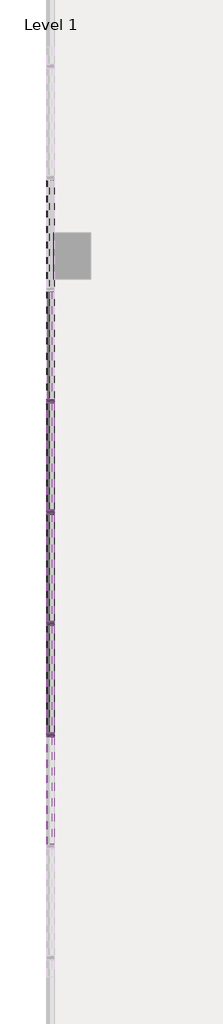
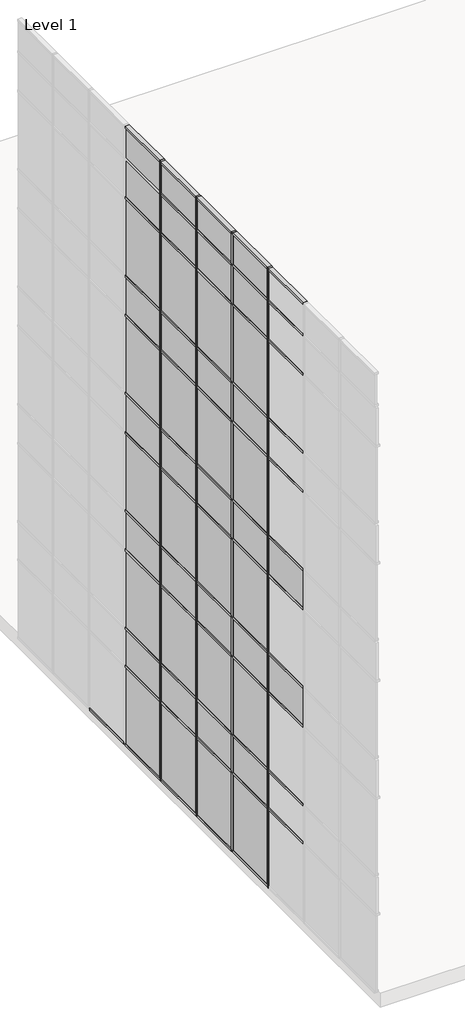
# One storey, part 2 of 23: 83 members, 46 plates.
"""IFC4 building model written with IfcOpenShell, lengths in millimetres."""

from ifc_helpers import new_model, si_unit, origin, place, context, project, spatial, transform, mapped, element, save
from components import member_f92b8aa2, member_810865a4, member_6d5c3e5e, member_9764dd38, system_panel_glazed_14c75400, system_panel_solid_5dfe6f83, system_panel_solid_e25e2004, system_panel_solid_b7551183

model = new_model("IFC4")

# Units and contexts
model_context = context("Model", 3, world=origin())
ifc_project = project(units=[si_unit("LENGTHUNIT", "METRE", prefix="MILLI")], contexts=[model_context])

# Site, building, storey
site = spatial("IfcSite", under=ifc_project)
building = spatial("IfcBuilding", under=site)
storey = spatial("IfcBuildingStorey", under=building, Name="Level 1", Elevation=0.0)

# Members
placement = place(None, origin())
member_shape = member_f92b8aa2(model_context)
element("IfcMember", 1, ObjectType="Rectangular Mullion : 2.5\" x 5\" rectangular", at=placement, inside=storey, context=model_context, shape_type="MappedRepresentation", body=[
    mapped(member_shape, transform((-68724.2599961, -22227.5103492, 18288.0), x_axis=(0.0, 1.0, 0.0), y_axis=(1.0, 0.0, 0.0), z_axis=(0.0, 0.0, -1.0))),
])
element("IfcMember", 2, ObjectType="Rectangular Mullion : 2.5\" x 5\" rectangular", at=placement, inside=storey, context=model_context, shape_type="MappedRepresentation", body=[
    mapped(member_shape, transform((-68724.2599961, -20398.7103492, 18288.0), x_axis=(0.0, 1.0, 0.0), y_axis=(1.0, 0.0, 0.0), z_axis=(0.0, 0.0, -1.0))),
])
element("IfcMember", 3, ObjectType="Rectangular Mullion : 2.5\" x 5\" rectangular", at=placement, inside=storey, context=model_context, shape_type="MappedRepresentation", body=[
    mapped(member_shape, transform((-68724.2599961, -18569.9103492, 18288.0), x_axis=(0.0, 1.0, 0.0), y_axis=(1.0, 0.0, 0.0), z_axis=(0.0, 0.0, -1.0))),
])
element("IfcMember", 4, ObjectType="Rectangular Mullion : 2.5\" x 5\" rectangular", at=placement, inside=storey, context=model_context, shape_type="MappedRepresentation", body=[
    mapped(member_shape, transform((-68724.2599961, -16741.1103492, 18288.0), x_axis=(0.0, 1.0, 0.0), y_axis=(1.0, 0.0, 0.0), z_axis=(0.0, 0.0, -1.0))),
])
member_2_shape = member_810865a4(model_context)
element("IfcMember", 5, ObjectType="Rectangular Mullion : 2.5\" x 5\" rectangular", at=placement, inside=storey, context=model_context, shape_type="MappedRepresentation", body=[
    mapped(member_2_shape, transform((-68724.2599961, -22227.5103492, 3657.6), x_axis=(0.0, 1.0, 0.0), y_axis=(1.0, 0.0, 0.0), z_axis=(0.0, 0.0, -1.0))),
])
element("IfcMember", 6, ObjectType="Rectangular Mullion : 2.5\" x 5\" rectangular", at=placement, inside=storey, context=model_context, shape_type="MappedRepresentation", body=[
    mapped(member_2_shape, transform((-68724.2599961, -20398.7103492, 3657.6), x_axis=(0.0, 1.0, 0.0), y_axis=(1.0, 0.0, 0.0), z_axis=(0.0, 0.0, -1.0))),
])
element("IfcMember", 7, ObjectType="Rectangular Mullion : 2.5\" x 5\" rectangular", at=placement, inside=storey, context=model_context, shape_type="MappedRepresentation", body=[
    mapped(member_2_shape, transform((-68724.2599961, -18569.9103492, 3657.6), x_axis=(0.0, 1.0, 0.0), y_axis=(1.0, 0.0, 0.0), z_axis=(0.0, 0.0, -1.0))),
])
element("IfcMember", 8, ObjectType="Rectangular Mullion : 2.5\" x 5\" rectangular", at=placement, inside=storey, context=model_context, shape_type="MappedRepresentation", body=[
    mapped(member_2_shape, transform((-68724.2599961, -16741.1103492, 3657.6), x_axis=(0.0, 1.0, 0.0), y_axis=(1.0, 0.0, 0.0), z_axis=(0.0, 0.0, -1.0))),
])
element("IfcMember", 9, ObjectType="Rectangular Mullion : 2.5\" x 5\" rectangular", at=placement, inside=storey, context=model_context, shape_type="MappedRepresentation", body=[
    mapped(member_2_shape, transform((-68724.2599961, -22227.5103492, 7315.2), x_axis=(0.0, 1.0, 0.0), y_axis=(1.0, 0.0, 0.0), z_axis=(0.0, 0.0, -1.0))),
])
element("IfcMember", 10, ObjectType="Rectangular Mullion : 2.5\" x 5\" rectangular", at=placement, inside=storey, context=model_context, shape_type="MappedRepresentation", body=[
    mapped(member_2_shape, transform((-68724.2599961, -20398.7103492, 7315.2), x_axis=(0.0, 1.0, 0.0), y_axis=(1.0, 0.0, 0.0), z_axis=(0.0, 0.0, -1.0))),
])
element("IfcMember", 11, ObjectType="Rectangular Mullion : 2.5\" x 5\" rectangular", at=placement, inside=storey, context=model_context, shape_type="MappedRepresentation", body=[
    mapped(member_2_shape, transform((-68724.2599961, -18569.9103492, 7315.2), x_axis=(0.0, 1.0, 0.0), y_axis=(1.0, 0.0, 0.0), z_axis=(0.0, 0.0, -1.0))),
])
element("IfcMember", 12, ObjectType="Rectangular Mullion : 2.5\" x 5\" rectangular", at=placement, inside=storey, context=model_context, shape_type="MappedRepresentation", body=[
    mapped(member_2_shape, transform((-68724.2599961, -16741.1103492, 7315.2), x_axis=(0.0, 1.0, 0.0), y_axis=(1.0, 0.0, 0.0), z_axis=(0.0, 0.0, -1.0))),
])
element("IfcMember", 13, ObjectType="Rectangular Mullion : 2.5\" x 5\" rectangular", at=placement, inside=storey, context=model_context, shape_type="MappedRepresentation", body=[
    mapped(member_2_shape, transform((-68724.2599961, -22227.5103492, 10972.8), x_axis=(0.0, 1.0, 0.0), y_axis=(1.0, 0.0, 0.0), z_axis=(0.0, 0.0, -1.0))),
])
element("IfcMember", 14, ObjectType="Rectangular Mullion : 2.5\" x 5\" rectangular", at=placement, inside=storey, context=model_context, shape_type="MappedRepresentation", body=[
    mapped(member_2_shape, transform((-68724.2599961, -20398.7103492, 10972.8), x_axis=(0.0, 1.0, 0.0), y_axis=(1.0, 0.0, 0.0), z_axis=(0.0, 0.0, -1.0))),
])
element("IfcMember", 15, ObjectType="Rectangular Mullion : 2.5\" x 5\" rectangular", at=placement, inside=storey, context=model_context, shape_type="MappedRepresentation", body=[
    mapped(member_2_shape, transform((-68724.2599961, -18569.9103492, 10972.8), x_axis=(0.0, 1.0, 0.0), y_axis=(1.0, 0.0, 0.0), z_axis=(0.0, 0.0, -1.0))),
])
element("IfcMember", 16, ObjectType="Rectangular Mullion : 2.5\" x 5\" rectangular", at=placement, inside=storey, context=model_context, shape_type="MappedRepresentation", body=[
    mapped(member_2_shape, transform((-68724.2599961, -16741.1103492, 10972.8), x_axis=(0.0, 1.0, 0.0), y_axis=(1.0, 0.0, 0.0), z_axis=(0.0, 0.0, -1.0))),
])
element("IfcMember", 17, ObjectType="Rectangular Mullion : 2.5\" x 5\" rectangular", at=placement, inside=storey, context=model_context, shape_type="MappedRepresentation", body=[
    mapped(member_2_shape, transform((-68724.2599961, -22227.5103492, 14630.4), x_axis=(0.0, 1.0, 0.0), y_axis=(1.0, 0.0, 0.0), z_axis=(0.0, 0.0, -1.0))),
])
element("IfcMember", 18, ObjectType="Rectangular Mullion : 2.5\" x 5\" rectangular", at=placement, inside=storey, context=model_context, shape_type="MappedRepresentation", body=[
    mapped(member_2_shape, transform((-68724.2599961, -20398.7103492, 14630.4), x_axis=(0.0, 1.0, 0.0), y_axis=(1.0, 0.0, 0.0), z_axis=(0.0, 0.0, -1.0))),
])
element("IfcMember", 19, ObjectType="Rectangular Mullion : 2.5\" x 5\" rectangular", at=placement, inside=storey, context=model_context, shape_type="MappedRepresentation", body=[
    mapped(member_2_shape, transform((-68724.2599961, -18569.9103492, 14630.4), x_axis=(0.0, 1.0, 0.0), y_axis=(1.0, 0.0, 0.0), z_axis=(0.0, 0.0, -1.0))),
])
element("IfcMember", 20, ObjectType="Rectangular Mullion : 2.5\" x 5\" rectangular", at=placement, inside=storey, context=model_context, shape_type="MappedRepresentation", body=[
    mapped(member_2_shape, transform((-68724.2599961, -16741.1103492, 14630.4), x_axis=(0.0, 1.0, 0.0), y_axis=(1.0, 0.0, 0.0), z_axis=(0.0, 0.0, -1.0))),
])
member_3_shape = member_6d5c3e5e(model_context)
element("IfcMember", 21, ObjectType="Rectangular Mullion : 2.5\" x 5\" rectangular", at=placement, inside=storey, context=model_context, shape_type="MappedRepresentation", body=[
    mapped(member_3_shape, transform((-68724.2599961, -22259.2603492, 19304.0), x_axis=(0.0, 0.0, 1.0), y_axis=(1.0, 0.0, 0.0), z_axis=(0.0, 1.0, 0.0))),
])
element("IfcMember", 22, ObjectType="Rectangular Mullion : 2.5\" x 5\" rectangular", at=placement, inside=storey, context=model_context, shape_type="MappedRepresentation", body=[
    mapped(member_3_shape, transform((-68724.2599961, -20430.4603492, 19304.0), x_axis=(0.0, 0.0, 1.0), y_axis=(1.0, 0.0, 0.0), z_axis=(0.0, 1.0, 0.0))),
])
element("IfcMember", 23, ObjectType="Rectangular Mullion : 2.5\" x 5\" rectangular", at=placement, inside=storey, context=model_context, shape_type="MappedRepresentation", body=[
    mapped(member_3_shape, transform((-68724.2599961, -18601.6603492, 19304.0), x_axis=(0.0, 0.0, 1.0), y_axis=(1.0, 0.0, 0.0), z_axis=(0.0, 1.0, 0.0))),
])
element("IfcMember", 24, ObjectType="Rectangular Mullion : 2.5\" x 5\" rectangular", at=placement, inside=storey, context=model_context, shape_type="MappedRepresentation", body=[
    mapped(member_3_shape, transform((-68724.2599961, -16772.8603492, 19304.0), x_axis=(0.0, 0.0, 1.0), y_axis=(1.0, 0.0, 0.0), z_axis=(0.0, 1.0, 0.0))),
])
element("IfcMember", 25, ObjectType="Rectangular Mullion : 2.5\" x 5\" rectangular", at=placement, inside=storey, context=model_context, shape_type="MappedRepresentation", body=[
    mapped(member_3_shape, transform((-68724.2599961, -14944.0603492, 19304.0), x_axis=(0.0, 0.0, 1.0), y_axis=(1.0, 0.0, 0.0), z_axis=(0.0, 1.0, 0.0))),
])
member_4_shape = member_9764dd38(model_context)
element("IfcMember", 26, ObjectType="Rectangular Mullion : 2.5\" x 5\" rectangular", at=placement, inside=storey, context=model_context, shape_type="MappedRepresentation", body=[
    mapped(member_4_shape, transform((-68724.2599961, -14944.0603492, 17068.8), x_axis=(0.0, 0.0, 1.0), y_axis=(1.0, 0.0, 0.0), z_axis=(0.0, 1.0, 0.0))),
])
element("IfcMember", 27, ObjectType="Rectangular Mullion : 2.5\" x 5\" rectangular", at=placement, inside=storey, context=model_context, shape_type="MappedRepresentation", body=[
    mapped(member_4_shape, transform((-68724.2599961, -16772.8603492, 17068.8), x_axis=(0.0, 0.0, 1.0), y_axis=(1.0, 0.0, 0.0), z_axis=(0.0, 1.0, 0.0))),
])
element("IfcMember", 28, ObjectType="Rectangular Mullion : 2.5\" x 5\" rectangular", at=placement, inside=storey, context=model_context, shape_type="MappedRepresentation", body=[
    mapped(member_4_shape, transform((-68724.2599961, -18601.6603492, 17068.8), x_axis=(0.0, 0.0, 1.0), y_axis=(1.0, 0.0, 0.0), z_axis=(0.0, 1.0, 0.0))),
])
element("IfcMember", 29, ObjectType="Rectangular Mullion : 2.5\" x 5\" rectangular", at=placement, inside=storey, context=model_context, shape_type="MappedRepresentation", body=[
    mapped(member_4_shape, transform((-68724.2599961, -20430.4603492, 17068.8), x_axis=(0.0, 0.0, 1.0), y_axis=(1.0, 0.0, 0.0), z_axis=(0.0, 1.0, 0.0))),
])
element("IfcMember", 30, ObjectType="Rectangular Mullion : 2.5\" x 5\" rectangular", at=placement, inside=storey, context=model_context, shape_type="MappedRepresentation", body=[
    mapped(member_4_shape, transform((-68724.2599961, -22259.2603492, 17068.8), x_axis=(0.0, 0.0, 1.0), y_axis=(1.0, 0.0, 0.0), z_axis=(0.0, 1.0, 0.0))),
])
element("IfcMember", 31, ObjectType="Rectangular Mullion : 2.5\" x 5\" rectangular", at=placement, inside=storey, context=model_context, shape_type="MappedRepresentation", body=[
    mapped(member_4_shape, transform((-68724.2599961, -14944.0603492, 13411.2), x_axis=(0.0, 0.0, 1.0), y_axis=(1.0, 0.0, 0.0), z_axis=(0.0, 1.0, 0.0))),
])
element("IfcMember", 32, ObjectType="Rectangular Mullion : 2.5\" x 5\" rectangular", at=placement, inside=storey, context=model_context, shape_type="MappedRepresentation", body=[
    mapped(member_4_shape, transform((-68724.2599961, -16772.8603492, 13411.2), x_axis=(0.0, 0.0, 1.0), y_axis=(1.0, 0.0, 0.0), z_axis=(0.0, 1.0, 0.0))),
])
element("IfcMember", 33, ObjectType="Rectangular Mullion : 2.5\" x 5\" rectangular", at=placement, inside=storey, context=model_context, shape_type="MappedRepresentation", body=[
    mapped(member_4_shape, transform((-68724.2599961, -18601.6603492, 13411.2), x_axis=(0.0, 0.0, 1.0), y_axis=(1.0, 0.0, 0.0), z_axis=(0.0, 1.0, 0.0))),
])
element("IfcMember", 34, ObjectType="Rectangular Mullion : 2.5\" x 5\" rectangular", at=placement, inside=storey, context=model_context, shape_type="MappedRepresentation", body=[
    mapped(member_4_shape, transform((-68724.2599961, -20430.4603492, 13411.2), x_axis=(0.0, 0.0, 1.0), y_axis=(1.0, 0.0, 0.0), z_axis=(0.0, 1.0, 0.0))),
])
element("IfcMember", 35, ObjectType="Rectangular Mullion : 2.5\" x 5\" rectangular", at=placement, inside=storey, context=model_context, shape_type="MappedRepresentation", body=[
    mapped(member_4_shape, transform((-68724.2599961, -22259.2603492, 13411.2), x_axis=(0.0, 0.0, 1.0), y_axis=(1.0, 0.0, 0.0), z_axis=(0.0, 1.0, 0.0))),
])
element("IfcMember", 36, ObjectType="Rectangular Mullion : 2.5\" x 5\" rectangular", at=placement, inside=storey, context=model_context, shape_type="MappedRepresentation", body=[
    mapped(member_4_shape, transform((-68724.2599961, -14944.0603492, 9753.6), x_axis=(0.0, 0.0, 1.0), y_axis=(1.0, 0.0, 0.0), z_axis=(0.0, 1.0, 0.0))),
])
element("IfcMember", 37, ObjectType="Rectangular Mullion : 2.5\" x 5\" rectangular", at=placement, inside=storey, context=model_context, shape_type="MappedRepresentation", body=[
    mapped(member_4_shape, transform((-68724.2599961, -16772.8603492, 9753.6), x_axis=(0.0, 0.0, 1.0), y_axis=(1.0, 0.0, 0.0), z_axis=(0.0, 1.0, 0.0))),
])
element("IfcMember", 38, ObjectType="Rectangular Mullion : 2.5\" x 5\" rectangular", at=placement, inside=storey, context=model_context, shape_type="MappedRepresentation", body=[
    mapped(member_4_shape, transform((-68724.2599961, -18601.6603492, 9753.6), x_axis=(0.0, 0.0, 1.0), y_axis=(1.0, 0.0, 0.0), z_axis=(0.0, 1.0, 0.0))),
])
element("IfcMember", 39, ObjectType="Rectangular Mullion : 2.5\" x 5\" rectangular", at=placement, inside=storey, context=model_context, shape_type="MappedRepresentation", body=[
    mapped(member_4_shape, transform((-68724.2599961, -20430.4603492, 9753.6), x_axis=(0.0, 0.0, 1.0), y_axis=(1.0, 0.0, 0.0), z_axis=(0.0, 1.0, 0.0))),
])
element("IfcMember", 40, ObjectType="Rectangular Mullion : 2.5\" x 5\" rectangular", at=placement, inside=storey, context=model_context, shape_type="MappedRepresentation", body=[
    mapped(member_4_shape, transform((-68724.2599961, -22259.2603492, 9753.6), x_axis=(0.0, 0.0, 1.0), y_axis=(1.0, 0.0, 0.0), z_axis=(0.0, 1.0, 0.0))),
])
element("IfcMember", 41, ObjectType="Rectangular Mullion : 2.5\" x 5\" rectangular", at=placement, inside=storey, context=model_context, shape_type="MappedRepresentation", body=[
    mapped(member_4_shape, transform((-68724.2599961, -14944.0603492, 6096.0), x_axis=(0.0, 0.0, 1.0), y_axis=(1.0, 0.0, 0.0), z_axis=(0.0, 1.0, 0.0))),
])
element("IfcMember", 42, ObjectType="Rectangular Mullion : 2.5\" x 5\" rectangular", at=placement, inside=storey, context=model_context, shape_type="MappedRepresentation", body=[
    mapped(member_4_shape, transform((-68724.2599961, -16772.8603492, 6096.0), x_axis=(0.0, 0.0, 1.0), y_axis=(1.0, 0.0, 0.0), z_axis=(0.0, 1.0, 0.0))),
])
element("IfcMember", 43, ObjectType="Rectangular Mullion : 2.5\" x 5\" rectangular", at=placement, inside=storey, context=model_context, shape_type="MappedRepresentation", body=[
    mapped(member_4_shape, transform((-68724.2599961, -18601.6603492, 6096.0), x_axis=(0.0, 0.0, 1.0), y_axis=(1.0, 0.0, 0.0), z_axis=(0.0, 1.0, 0.0))),
])
element("IfcMember", 44, ObjectType="Rectangular Mullion : 2.5\" x 5\" rectangular", at=placement, inside=storey, context=model_context, shape_type="MappedRepresentation", body=[
    mapped(member_4_shape, transform((-68724.2599961, -20430.4603492, 6096.0), x_axis=(0.0, 0.0, 1.0), y_axis=(1.0, 0.0, 0.0), z_axis=(0.0, 1.0, 0.0))),
])
element("IfcMember", 45, ObjectType="Rectangular Mullion : 2.5\" x 5\" rectangular", at=placement, inside=storey, context=model_context, shape_type="MappedRepresentation", body=[
    mapped(member_4_shape, transform((-68724.2599961, -22259.2603492, 6096.0), x_axis=(0.0, 0.0, 1.0), y_axis=(1.0, 0.0, 0.0), z_axis=(0.0, 1.0, 0.0))),
])
element("IfcMember", 46, ObjectType="Rectangular Mullion : 2.5\" x 5\" rectangular", at=placement, inside=storey, context=model_context, shape_type="MappedRepresentation", body=[
    mapped(member_4_shape, transform((-68724.2599961, -14944.0603492, 2470.15), x_axis=(0.0, 0.0, 1.0), y_axis=(1.0, 0.0, 0.0), z_axis=(0.0, 1.0, 0.0))),
])
element("IfcMember", 47, ObjectType="Rectangular Mullion : 2.5\" x 5\" rectangular", at=placement, inside=storey, context=model_context, shape_type="MappedRepresentation", body=[
    mapped(member_4_shape, transform((-68724.2599961, -16772.8603492, 2470.15), x_axis=(0.0, 0.0, 1.0), y_axis=(1.0, 0.0, 0.0), z_axis=(0.0, 1.0, 0.0))),
])
element("IfcMember", 48, ObjectType="Rectangular Mullion : 2.5\" x 5\" rectangular", at=placement, inside=storey, context=model_context, shape_type="MappedRepresentation", body=[
    mapped(member_4_shape, transform((-68724.2599961, -18601.6603492, 2470.15), x_axis=(0.0, 0.0, 1.0), y_axis=(1.0, 0.0, 0.0), z_axis=(0.0, 1.0, 0.0))),
])
element("IfcMember", 49, ObjectType="Rectangular Mullion : 2.5\" x 5\" rectangular", at=placement, inside=storey, context=model_context, shape_type="MappedRepresentation", body=[
    mapped(member_4_shape, transform((-68724.2599961, -20430.4603492, 2470.15), x_axis=(0.0, 0.0, 1.0), y_axis=(1.0, 0.0, 0.0), z_axis=(0.0, 1.0, 0.0))),
])
element("IfcMember", 50, ObjectType="Rectangular Mullion : 2.5\" x 5\" rectangular", at=placement, inside=storey, context=model_context, shape_type="MappedRepresentation", body=[
    mapped(member_4_shape, transform((-68724.2599961, -22259.2603492, 2470.15), x_axis=(0.0, 0.0, 1.0), y_axis=(1.0, 0.0, 0.0), z_axis=(0.0, 1.0, 0.0))),
])
element("IfcMember", 51, ObjectType="Rectangular Mullion : 2.5\" x 5\" rectangular", at=placement, inside=storey, context=model_context, shape_type="MappedRepresentation", body=[
    mapped(member_2_shape, transform((-68724.2599961, -22227.5103492, 0.0), x_axis=(0.0, 1.0, 0.0), y_axis=(1.0, 0.0, 0.0), z_axis=(0.0, 0.0, -1.0))),
])
element("IfcMember", 52, ObjectType="Rectangular Mullion : 2.5\" x 5\" rectangular", at=placement, inside=storey, context=model_context, shape_type="MappedRepresentation", body=[
    mapped(member_2_shape, transform((-68724.2599961, -20398.7103492, 0.0), x_axis=(0.0, 1.0, 0.0), y_axis=(1.0, 0.0, 0.0), z_axis=(0.0, 0.0, -1.0))),
])
element("IfcMember", 53, ObjectType="Rectangular Mullion : 2.5\" x 5\" rectangular", at=placement, inside=storey, context=model_context, shape_type="MappedRepresentation", body=[
    mapped(member_2_shape, transform((-68724.2599961, -18569.9103492, 0.0), x_axis=(0.0, 1.0, 0.0), y_axis=(1.0, 0.0, 0.0), z_axis=(0.0, 0.0, -1.0))),
])
element("IfcMember", 54, ObjectType="Rectangular Mullion : 2.5\" x 5\" rectangular", at=placement, inside=storey, context=model_context, shape_type="MappedRepresentation", body=[
    mapped(member_2_shape, transform((-68724.2599961, -16741.1103492, 0.0), x_axis=(0.0, 1.0, 0.0), y_axis=(1.0, 0.0, 0.0), z_axis=(0.0, 0.0, -1.0))),
])
element("IfcMember", 55, ObjectType="Rectangular Mullion : 2.5\" x 5\" rectangular", at=placement, inside=storey, context=model_context, shape_type="MappedRepresentation", body=[
    mapped(member_3_shape, transform((-68724.2599961, -22195.7603492, 0.0), x_axis=(0.0, 0.0, -1.0), y_axis=(1.0, 0.0, 0.0), z_axis=(0.0, -1.0, 0.0))),
])
element("IfcMember", 56, ObjectType="Rectangular Mullion : 2.5\" x 5\" rectangular", at=placement, inside=storey, context=model_context, shape_type="MappedRepresentation", body=[
    mapped(member_3_shape, transform((-68724.2599961, -20366.9603492, 0.0), x_axis=(0.0, 0.0, -1.0), y_axis=(1.0, 0.0, 0.0), z_axis=(0.0, -1.0, 0.0))),
])
element("IfcMember", 57, ObjectType="Rectangular Mullion : 2.5\" x 5\" rectangular", at=placement, inside=storey, context=model_context, shape_type="MappedRepresentation", body=[
    mapped(member_3_shape, transform((-68724.2599961, -18538.1603492, 0.0), x_axis=(0.0, 0.0, -1.0), y_axis=(1.0, 0.0, 0.0), z_axis=(0.0, -1.0, 0.0))),
])
element("IfcMember", 58, ObjectType="Rectangular Mullion : 2.5\" x 5\" rectangular", at=placement, inside=storey, context=model_context, shape_type="MappedRepresentation", body=[
    mapped(member_3_shape, transform((-68724.2599961, -16709.3603492, 0.0), x_axis=(0.0, 0.0, -1.0), y_axis=(1.0, 0.0, 0.0), z_axis=(0.0, -1.0, 0.0))),
])
element("IfcMember", 59, ObjectType="Rectangular Mullion : 2.5\" x 5\" rectangular", at=placement, inside=storey, context=model_context, shape_type="MappedRepresentation", body=[
    mapped(member_3_shape, transform((-68724.2599961, -14880.5603492, 0.0), x_axis=(0.0, 0.0, -1.0), y_axis=(1.0, 0.0, 0.0), z_axis=(0.0, -1.0, 0.0))),
])
element("IfcMember", 60, ObjectType="Rectangular Mullion : 2.5\" x 5\" rectangular", at=placement, inside=storey, context=model_context, shape_type="MappedRepresentation", body=[
    mapped(member_4_shape, transform((-68724.2599961, -22259.2603492, 3657.6), x_axis=(0.0, 0.0, 1.0), y_axis=(1.0, 0.0, 0.0), z_axis=(0.0, 1.0, 0.0))),
])
element("IfcMember", 61, ObjectType="Rectangular Mullion : 2.5\" x 5\" rectangular", at=placement, inside=storey, context=model_context, shape_type="MappedRepresentation", body=[
    mapped(member_4_shape, transform((-68724.2599961, -20430.4603492, 3657.6), x_axis=(0.0, 0.0, 1.0), y_axis=(1.0, 0.0, 0.0), z_axis=(0.0, 1.0, 0.0))),
])
element("IfcMember", 62, ObjectType="Rectangular Mullion : 2.5\" x 5\" rectangular", at=placement, inside=storey, context=model_context, shape_type="MappedRepresentation", body=[
    mapped(member_4_shape, transform((-68724.2599961, -18601.6603492, 3657.6), x_axis=(0.0, 0.0, 1.0), y_axis=(1.0, 0.0, 0.0), z_axis=(0.0, 1.0, 0.0))),
])
element("IfcMember", 63, ObjectType="Rectangular Mullion : 2.5\" x 5\" rectangular", at=placement, inside=storey, context=model_context, shape_type="MappedRepresentation", body=[
    mapped(member_4_shape, transform((-68724.2599961, -16772.8603492, 3657.6), x_axis=(0.0, 0.0, 1.0), y_axis=(1.0, 0.0, 0.0), z_axis=(0.0, 1.0, 0.0))),
])
element("IfcMember", 64, ObjectType="Rectangular Mullion : 2.5\" x 5\" rectangular", at=placement, inside=storey, context=model_context, shape_type="MappedRepresentation", body=[
    mapped(member_4_shape, transform((-68724.2599961, -14944.0603492, 3657.6), x_axis=(0.0, 0.0, 1.0), y_axis=(1.0, 0.0, 0.0), z_axis=(0.0, 1.0, 0.0))),
])
element("IfcMember", 65, ObjectType="Rectangular Mullion : 2.5\" x 5\" rectangular", at=placement, inside=storey, context=model_context, shape_type="MappedRepresentation", body=[
    mapped(member_4_shape, transform((-68724.2599961, -22259.2603492, 7315.2), x_axis=(0.0, 0.0, 1.0), y_axis=(1.0, 0.0, 0.0), z_axis=(0.0, 1.0, 0.0))),
])
element("IfcMember", 66, ObjectType="Rectangular Mullion : 2.5\" x 5\" rectangular", at=placement, inside=storey, context=model_context, shape_type="MappedRepresentation", body=[
    mapped(member_4_shape, transform((-68724.2599961, -20430.4603492, 7315.2), x_axis=(0.0, 0.0, 1.0), y_axis=(1.0, 0.0, 0.0), z_axis=(0.0, 1.0, 0.0))),
])
element("IfcMember", 67, ObjectType="Rectangular Mullion : 2.5\" x 5\" rectangular", at=placement, inside=storey, context=model_context, shape_type="MappedRepresentation", body=[
    mapped(member_4_shape, transform((-68724.2599961, -18601.6603492, 7315.2), x_axis=(0.0, 0.0, 1.0), y_axis=(1.0, 0.0, 0.0), z_axis=(0.0, 1.0, 0.0))),
])
element("IfcMember", 68, ObjectType="Rectangular Mullion : 2.5\" x 5\" rectangular", at=placement, inside=storey, context=model_context, shape_type="MappedRepresentation", body=[
    mapped(member_4_shape, transform((-68724.2599961, -16772.8603492, 7315.2), x_axis=(0.0, 0.0, 1.0), y_axis=(1.0, 0.0, 0.0), z_axis=(0.0, 1.0, 0.0))),
])
element("IfcMember", 69, ObjectType="Rectangular Mullion : 2.5\" x 5\" rectangular", at=placement, inside=storey, context=model_context, shape_type="MappedRepresentation", body=[
    mapped(member_4_shape, transform((-68724.2599961, -14944.0603492, 7315.2), x_axis=(0.0, 0.0, 1.0), y_axis=(1.0, 0.0, 0.0), z_axis=(0.0, 1.0, 0.0))),
])
element("IfcMember", 70, ObjectType="Rectangular Mullion : 2.5\" x 5\" rectangular", at=placement, inside=storey, context=model_context, shape_type="MappedRepresentation", body=[
    mapped(member_4_shape, transform((-68724.2599961, -22259.2603492, 10972.8), x_axis=(0.0, 0.0, 1.0), y_axis=(1.0, 0.0, 0.0), z_axis=(0.0, 1.0, 0.0))),
])
element("IfcMember", 71, ObjectType="Rectangular Mullion : 2.5\" x 5\" rectangular", at=placement, inside=storey, context=model_context, shape_type="MappedRepresentation", body=[
    mapped(member_4_shape, transform((-68724.2599961, -20430.4603492, 10972.8), x_axis=(0.0, 0.0, 1.0), y_axis=(1.0, 0.0, 0.0), z_axis=(0.0, 1.0, 0.0))),
])
element("IfcMember", 72, ObjectType="Rectangular Mullion : 2.5\" x 5\" rectangular", at=placement, inside=storey, context=model_context, shape_type="MappedRepresentation", body=[
    mapped(member_4_shape, transform((-68724.2599961, -18601.6603492, 10972.8), x_axis=(0.0, 0.0, 1.0), y_axis=(1.0, 0.0, 0.0), z_axis=(0.0, 1.0, 0.0))),
])
element("IfcMember", 73, ObjectType="Rectangular Mullion : 2.5\" x 5\" rectangular", at=placement, inside=storey, context=model_context, shape_type="MappedRepresentation", body=[
    mapped(member_4_shape, transform((-68724.2599961, -16772.8603492, 10972.8), x_axis=(0.0, 0.0, 1.0), y_axis=(1.0, 0.0, 0.0), z_axis=(0.0, 1.0, 0.0))),
])
element("IfcMember", 74, ObjectType="Rectangular Mullion : 2.5\" x 5\" rectangular", at=placement, inside=storey, context=model_context, shape_type="MappedRepresentation", body=[
    mapped(member_4_shape, transform((-68724.2599961, -14944.0603492, 10972.8), x_axis=(0.0, 0.0, 1.0), y_axis=(1.0, 0.0, 0.0), z_axis=(0.0, 1.0, 0.0))),
])
element("IfcMember", 75, ObjectType="Rectangular Mullion : 2.5\" x 5\" rectangular", at=placement, inside=storey, context=model_context, shape_type="MappedRepresentation", body=[
    mapped(member_4_shape, transform((-68724.2599961, -22259.2603492, 14630.4), x_axis=(0.0, 0.0, 1.0), y_axis=(1.0, 0.0, 0.0), z_axis=(0.0, 1.0, 0.0))),
])
element("IfcMember", 76, ObjectType="Rectangular Mullion : 2.5\" x 5\" rectangular", at=placement, inside=storey, context=model_context, shape_type="MappedRepresentation", body=[
    mapped(member_4_shape, transform((-68724.2599961, -20430.4603492, 14630.4), x_axis=(0.0, 0.0, 1.0), y_axis=(1.0, 0.0, 0.0), z_axis=(0.0, 1.0, 0.0))),
])
element("IfcMember", 77, ObjectType="Rectangular Mullion : 2.5\" x 5\" rectangular", at=placement, inside=storey, context=model_context, shape_type="MappedRepresentation", body=[
    mapped(member_4_shape, transform((-68724.2599961, -18601.6603492, 14630.4), x_axis=(0.0, 0.0, 1.0), y_axis=(1.0, 0.0, 0.0), z_axis=(0.0, 1.0, 0.0))),
])
element("IfcMember", 78, ObjectType="Rectangular Mullion : 2.5\" x 5\" rectangular", at=placement, inside=storey, context=model_context, shape_type="MappedRepresentation", body=[
    mapped(member_4_shape, transform((-68724.2599961, -16772.8603492, 14630.4), x_axis=(0.0, 0.0, 1.0), y_axis=(1.0, 0.0, 0.0), z_axis=(0.0, 1.0, 0.0))),
])
element("IfcMember", 79, ObjectType="Rectangular Mullion : 2.5\" x 5\" rectangular", at=placement, inside=storey, context=model_context, shape_type="MappedRepresentation", body=[
    mapped(member_4_shape, transform((-68724.2599961, -14944.0603492, 14630.4), x_axis=(0.0, 0.0, 1.0), y_axis=(1.0, 0.0, 0.0), z_axis=(0.0, 1.0, 0.0))),
])
element("IfcMember", 80, ObjectType="Rectangular Mullion : 2.5\" x 5\" rectangular", at=placement, inside=storey, context=model_context, shape_type="MappedRepresentation", body=[
    mapped(member_4_shape, transform((-68724.2599961, -22259.2603492, 18288.0), x_axis=(0.0, 0.0, 1.0), y_axis=(1.0, 0.0, 0.0), z_axis=(0.0, 1.0, 0.0))),
])
element("IfcMember", 81, ObjectType="Rectangular Mullion : 2.5\" x 5\" rectangular", at=placement, inside=storey, context=model_context, shape_type="MappedRepresentation", body=[
    mapped(member_4_shape, transform((-68724.2599961, -20430.4603492, 18288.0), x_axis=(0.0, 0.0, 1.0), y_axis=(1.0, 0.0, 0.0), z_axis=(0.0, 1.0, 0.0))),
])
element("IfcMember", 82, ObjectType="Rectangular Mullion : 2.5\" x 5\" rectangular", at=placement, inside=storey, context=model_context, shape_type="MappedRepresentation", body=[
    mapped(member_4_shape, transform((-68724.2599961, -18601.6603492, 18288.0), x_axis=(0.0, 0.0, 1.0), y_axis=(1.0, 0.0, 0.0), z_axis=(0.0, 1.0, 0.0))),
])
element("IfcMember", 83, ObjectType="Rectangular Mullion : 2.5\" x 5\" rectangular", at=placement, inside=storey, context=model_context, shape_type="MappedRepresentation", body=[
    mapped(member_4_shape, transform((-68724.2599961, -16772.8603492, 18288.0), x_axis=(0.0, 0.0, 1.0), y_axis=(1.0, 0.0, 0.0), z_axis=(0.0, 1.0, 0.0))),
])

# Plates
system_panel_glazed_shape = system_panel_glazed_14c75400(model_context)
element("IfcPlate", 84, ObjectType="System Panel : Glazed", at=placement, inside=storey, context=model_context, shape_type="MappedRepresentation", body=[
    mapped(system_panel_glazed_shape, transform((-68724.2599961, -15826.7103492, 14662.15), x_axis=(0.0, 1.0, 0.0), y_axis=(-1.0, 0.0, 0.0), z_axis=(0.0, 0.0, 1.0))),
])
element("IfcPlate", 85, ObjectType="System Panel : Glazed", at=placement, inside=storey, context=model_context, shape_type="MappedRepresentation", body=[
    mapped(system_panel_glazed_shape, transform((-68724.2599961, -17655.5103492, 14662.15), x_axis=(0.0, 1.0, 0.0), y_axis=(-1.0, 0.0, 0.0), z_axis=(0.0, 0.0, 1.0))),
])
element("IfcPlate", 86, ObjectType="System Panel : Glazed", at=placement, inside=storey, context=model_context, shape_type="MappedRepresentation", body=[
    mapped(system_panel_glazed_shape, transform((-68724.2599961, -19484.3103492, 14662.15), x_axis=(0.0, 1.0, 0.0), y_axis=(-1.0, 0.0, 0.0), z_axis=(0.0, 0.0, 1.0))),
])
element("IfcPlate", 87, ObjectType="System Panel : Glazed", at=placement, inside=storey, context=model_context, shape_type="MappedRepresentation", body=[
    mapped(system_panel_glazed_shape, transform((-68724.2599961, -21313.1103492, 14662.15), x_axis=(0.0, 1.0, 0.0), y_axis=(-1.0, 0.0, 0.0), z_axis=(0.0, 0.0, 1.0))),
])
element("IfcPlate", 88, ObjectType="System Panel : Glazed", at=placement, inside=storey, context=model_context, shape_type="MappedRepresentation", body=[
    mapped(system_panel_glazed_shape, transform((-68724.2599961, -15826.7103492, 11004.55), x_axis=(0.0, 1.0, 0.0), y_axis=(-1.0, 0.0, 0.0), z_axis=(0.0, 0.0, 1.0))),
])
element("IfcPlate", 89, ObjectType="System Panel : Glazed", at=placement, inside=storey, context=model_context, shape_type="MappedRepresentation", body=[
    mapped(system_panel_glazed_shape, transform((-68724.2599961, -17655.5103492, 11004.55), x_axis=(0.0, 1.0, 0.0), y_axis=(-1.0, 0.0, 0.0), z_axis=(0.0, 0.0, 1.0))),
])
element("IfcPlate", 90, ObjectType="System Panel : Glazed", at=placement, inside=storey, context=model_context, shape_type="MappedRepresentation", body=[
    mapped(system_panel_glazed_shape, transform((-68724.2599961, -19484.3103492, 11004.55), x_axis=(0.0, 1.0, 0.0), y_axis=(-1.0, 0.0, 0.0), z_axis=(0.0, 0.0, 1.0))),
])
element("IfcPlate", 91, ObjectType="System Panel : Glazed", at=placement, inside=storey, context=model_context, shape_type="MappedRepresentation", body=[
    mapped(system_panel_glazed_shape, transform((-68724.2599961, -21313.1103492, 11004.55), x_axis=(0.0, 1.0, 0.0), y_axis=(-1.0, 0.0, 0.0), z_axis=(0.0, 0.0, 1.0))),
])
element("IfcPlate", 92, ObjectType="System Panel : Glazed", at=placement, inside=storey, context=model_context, shape_type="MappedRepresentation", body=[
    mapped(system_panel_glazed_shape, transform((-68724.2599961, -15826.7103492, 7346.95), x_axis=(0.0, 1.0, 0.0), y_axis=(-1.0, 0.0, 0.0), z_axis=(0.0, 0.0, 1.0))),
])
element("IfcPlate", 93, ObjectType="System Panel : Glazed", at=placement, inside=storey, context=model_context, shape_type="MappedRepresentation", body=[
    mapped(system_panel_glazed_shape, transform((-68724.2599961, -17655.5103492, 7346.95), x_axis=(0.0, 1.0, 0.0), y_axis=(-1.0, 0.0, 0.0), z_axis=(0.0, 0.0, 1.0))),
])
element("IfcPlate", 94, ObjectType="System Panel : Glazed", at=placement, inside=storey, context=model_context, shape_type="MappedRepresentation", body=[
    mapped(system_panel_glazed_shape, transform((-68724.2599961, -19484.3103492, 7346.95), x_axis=(0.0, 1.0, 0.0), y_axis=(-1.0, 0.0, 0.0), z_axis=(0.0, 0.0, 1.0))),
])
element("IfcPlate", 95, ObjectType="System Panel : Glazed", at=placement, inside=storey, context=model_context, shape_type="MappedRepresentation", body=[
    mapped(system_panel_glazed_shape, transform((-68724.2599961, -21313.1103492, 7346.95), x_axis=(0.0, 1.0, 0.0), y_axis=(-1.0, 0.0, 0.0), z_axis=(0.0, 0.0, 1.0))),
])
element("IfcPlate", 96, ObjectType="System Panel : Glazed", at=placement, inside=storey, context=model_context, shape_type="MappedRepresentation", body=[
    mapped(system_panel_glazed_shape, transform((-68724.2599961, -15826.7103492, 3689.35), x_axis=(0.0, 1.0, 0.0), y_axis=(-1.0, 0.0, 0.0), z_axis=(0.0, 0.0, 1.0))),
])
element("IfcPlate", 97, ObjectType="System Panel : Glazed", at=placement, inside=storey, context=model_context, shape_type="MappedRepresentation", body=[
    mapped(system_panel_glazed_shape, transform((-68724.2599961, -17655.5103492, 3689.35), x_axis=(0.0, 1.0, 0.0), y_axis=(-1.0, 0.0, 0.0), z_axis=(0.0, 0.0, 1.0))),
])
element("IfcPlate", 98, ObjectType="System Panel : Glazed", at=placement, inside=storey, context=model_context, shape_type="MappedRepresentation", body=[
    mapped(system_panel_glazed_shape, transform((-68724.2599961, -19484.3103492, 3689.35), x_axis=(0.0, 1.0, 0.0), y_axis=(-1.0, 0.0, 0.0), z_axis=(0.0, 0.0, 1.0))),
])
element("IfcPlate", 99, ObjectType="System Panel : Glazed", at=placement, inside=storey, context=model_context, shape_type="MappedRepresentation", body=[
    mapped(system_panel_glazed_shape, transform((-68724.2599961, -21313.1103492, 3689.35), x_axis=(0.0, 1.0, 0.0), y_axis=(-1.0, 0.0, 0.0), z_axis=(0.0, 0.0, 1.0))),
])
element("IfcPlate", 100, ObjectType="System Panel : Glazed", at=placement, inside=storey, context=model_context, shape_type="MappedRepresentation", body=[
    mapped(system_panel_glazed_shape, transform((-68724.2599961, -15826.7103492, 63.5), x_axis=(0.0, 1.0, 0.0), y_axis=(-1.0, 0.0, 0.0), z_axis=(0.0, 0.0, 1.0))),
])
element("IfcPlate", 101, ObjectType="System Panel : Glazed", at=placement, inside=storey, context=model_context, shape_type="MappedRepresentation", body=[
    mapped(system_panel_glazed_shape, transform((-68724.2599961, -17655.5103492, 63.5), x_axis=(0.0, 1.0, 0.0), y_axis=(-1.0, 0.0, 0.0), z_axis=(0.0, 0.0, 1.0))),
])
element("IfcPlate", 102, ObjectType="System Panel : Glazed", at=placement, inside=storey, context=model_context, shape_type="MappedRepresentation", body=[
    mapped(system_panel_glazed_shape, transform((-68724.2599961, -19484.3103492, 63.5), x_axis=(0.0, 1.0, 0.0), y_axis=(-1.0, 0.0, 0.0), z_axis=(0.0, 0.0, 1.0))),
])
element("IfcPlate", 103, ObjectType="System Panel : Glazed", at=placement, inside=storey, context=model_context, shape_type="MappedRepresentation", body=[
    mapped(system_panel_glazed_shape, transform((-68724.2599961, -21313.1103492, 63.5), x_axis=(0.0, 1.0, 0.0), y_axis=(-1.0, 0.0, 0.0), z_axis=(0.0, 0.0, 1.0))),
])
system_panel_solid_shape = system_panel_solid_5dfe6f83(model_context)
element("IfcPlate", 104, ObjectType="System Panel : Solid", at=placement, inside=storey, context=model_context, shape_type="MappedRepresentation", body=[
    mapped(system_panel_solid_shape, transform((-68724.2599961, -21313.1103492, 18319.75), x_axis=(0.0, 1.0, 0.0), y_axis=(-1.0, 0.0, 0.0), z_axis=(0.0, 0.0, 1.0))),
])
element("IfcPlate", 105, ObjectType="System Panel : Solid", at=placement, inside=storey, context=model_context, shape_type="MappedRepresentation", body=[
    mapped(system_panel_solid_shape, transform((-68724.2599961, -19484.3103492, 18319.75), x_axis=(0.0, 1.0, 0.0), y_axis=(-1.0, 0.0, 0.0), z_axis=(0.0, 0.0, 1.0))),
])
element("IfcPlate", 106, ObjectType="System Panel : Solid", at=placement, inside=storey, context=model_context, shape_type="MappedRepresentation", body=[
    mapped(system_panel_solid_shape, transform((-68724.2599961, -17655.5103492, 18319.75), x_axis=(0.0, 1.0, 0.0), y_axis=(-1.0, 0.0, 0.0), z_axis=(0.0, 0.0, 1.0))),
])
element("IfcPlate", 107, ObjectType="System Panel : Solid", at=placement, inside=storey, context=model_context, shape_type="MappedRepresentation", body=[
    mapped(system_panel_solid_shape, transform((-68724.2599961, -15826.7103492, 18319.75), x_axis=(0.0, 1.0, 0.0), y_axis=(-1.0, 0.0, 0.0), z_axis=(0.0, 0.0, 1.0))),
])
system_panel_solid_2_shape = system_panel_solid_e25e2004(model_context)
element("IfcPlate", 108, ObjectType="System Panel : Solid", at=placement, inside=storey, context=model_context, shape_type="MappedRepresentation", body=[
    mapped(system_panel_solid_2_shape, transform((-68724.2599961, -15826.7103492, 17100.55), x_axis=(0.0, 1.0, 0.0), y_axis=(-1.0, 0.0, 0.0), z_axis=(0.0, 0.0, 1.0))),
])
element("IfcPlate", 109, ObjectType="System Panel : Solid", at=placement, inside=storey, context=model_context, shape_type="MappedRepresentation", body=[
    mapped(system_panel_solid_2_shape, transform((-68724.2599961, -17655.5103492, 17100.55), x_axis=(0.0, 1.0, 0.0), y_axis=(-1.0, 0.0, 0.0), z_axis=(0.0, 0.0, 1.0))),
])
element("IfcPlate", 110, ObjectType="System Panel : Solid", at=placement, inside=storey, context=model_context, shape_type="MappedRepresentation", body=[
    mapped(system_panel_solid_2_shape, transform((-68724.2599961, -19484.3103492, 17100.55), x_axis=(0.0, 1.0, 0.0), y_axis=(-1.0, 0.0, 0.0), z_axis=(0.0, 0.0, 1.0))),
])
element("IfcPlate", 111, ObjectType="System Panel : Solid", at=placement, inside=storey, context=model_context, shape_type="MappedRepresentation", body=[
    mapped(system_panel_solid_2_shape, transform((-68724.2599961, -21313.1103492, 17100.55), x_axis=(0.0, 1.0, 0.0), y_axis=(-1.0, 0.0, 0.0), z_axis=(0.0, 0.0, 1.0))),
])
element("IfcPlate", 112, ObjectType="System Panel : Solid", at=placement, inside=storey, context=model_context, shape_type="MappedRepresentation", body=[
    mapped(system_panel_solid_2_shape, transform((-68724.2599961, -15826.7103492, 13442.95), x_axis=(0.0, 1.0, 0.0), y_axis=(-1.0, 0.0, 0.0), z_axis=(0.0, 0.0, 1.0))),
])
element("IfcPlate", 113, ObjectType="System Panel : Solid", at=placement, inside=storey, context=model_context, shape_type="MappedRepresentation", body=[
    mapped(system_panel_solid_2_shape, transform((-68724.2599961, -17655.5103492, 13442.95), x_axis=(0.0, 1.0, 0.0), y_axis=(-1.0, 0.0, 0.0), z_axis=(0.0, 0.0, 1.0))),
])
element("IfcPlate", 114, ObjectType="System Panel : Solid", at=placement, inside=storey, context=model_context, shape_type="MappedRepresentation", body=[
    mapped(system_panel_solid_2_shape, transform((-68724.2599961, -19484.3103492, 13442.95), x_axis=(0.0, 1.0, 0.0), y_axis=(-1.0, 0.0, 0.0), z_axis=(0.0, 0.0, 1.0))),
])
element("IfcPlate", 115, ObjectType="System Panel : Solid", at=placement, inside=storey, context=model_context, shape_type="MappedRepresentation", body=[
    mapped(system_panel_solid_2_shape, transform((-68724.2599961, -21313.1103492, 13442.95), x_axis=(0.0, 1.0, 0.0), y_axis=(-1.0, 0.0, 0.0), z_axis=(0.0, 0.0, 1.0))),
])
element("IfcPlate", 116, ObjectType="System Panel : Solid", at=placement, inside=storey, context=model_context, shape_type="MappedRepresentation", body=[
    mapped(system_panel_solid_2_shape, transform((-68724.2599961, -15826.7103492, 9785.35), x_axis=(0.0, 1.0, 0.0), y_axis=(-1.0, 0.0, 0.0), z_axis=(0.0, 0.0, 1.0))),
])
element("IfcPlate", 117, ObjectType="System Panel : Solid", at=placement, inside=storey, context=model_context, shape_type="MappedRepresentation", body=[
    mapped(system_panel_solid_2_shape, transform((-68724.2599961, -17655.5103492, 9785.35), x_axis=(0.0, 1.0, 0.0), y_axis=(-1.0, 0.0, 0.0), z_axis=(0.0, 0.0, 1.0))),
])
element("IfcPlate", 118, ObjectType="System Panel : Solid", at=placement, inside=storey, context=model_context, shape_type="MappedRepresentation", body=[
    mapped(system_panel_solid_2_shape, transform((-68724.2599961, -19484.3103492, 9785.35), x_axis=(0.0, 1.0, 0.0), y_axis=(-1.0, 0.0, 0.0), z_axis=(0.0, 0.0, 1.0))),
])
element("IfcPlate", 119, ObjectType="System Panel : Solid", at=placement, inside=storey, context=model_context, shape_type="MappedRepresentation", body=[
    mapped(system_panel_solid_2_shape, transform((-68724.2599961, -21313.1103492, 9785.35), x_axis=(0.0, 1.0, 0.0), y_axis=(-1.0, 0.0, 0.0), z_axis=(0.0, 0.0, 1.0))),
])
element("IfcPlate", 120, ObjectType="System Panel : Solid", at=placement, inside=storey, context=model_context, shape_type="MappedRepresentation", body=[
    mapped(system_panel_solid_2_shape, transform((-68724.2599961, -23141.9103492, 9785.35), x_axis=(0.0, 1.0, 0.0), y_axis=(-1.0, 0.0, 0.0), z_axis=(0.0, 0.0, 1.0))),
])
element("IfcPlate", 121, ObjectType="System Panel : Solid", at=placement, inside=storey, context=model_context, shape_type="MappedRepresentation", body=[
    mapped(system_panel_solid_2_shape, transform((-68724.2599961, -15826.7103492, 6127.75), x_axis=(0.0, 1.0, 0.0), y_axis=(-1.0, 0.0, 0.0), z_axis=(0.0, 0.0, 1.0))),
])
element("IfcPlate", 122, ObjectType="System Panel : Solid", at=placement, inside=storey, context=model_context, shape_type="MappedRepresentation", body=[
    mapped(system_panel_solid_2_shape, transform((-68724.2599961, -17655.5103492, 6127.75), x_axis=(0.0, 1.0, 0.0), y_axis=(-1.0, 0.0, 0.0), z_axis=(0.0, 0.0, 1.0))),
])
element("IfcPlate", 123, ObjectType="System Panel : Solid", at=placement, inside=storey, context=model_context, shape_type="MappedRepresentation", body=[
    mapped(system_panel_solid_2_shape, transform((-68724.2599961, -19484.3103492, 6127.75), x_axis=(0.0, 1.0, 0.0), y_axis=(-1.0, 0.0, 0.0), z_axis=(0.0, 0.0, 1.0))),
])
element("IfcPlate", 124, ObjectType="System Panel : Solid", at=placement, inside=storey, context=model_context, shape_type="MappedRepresentation", body=[
    mapped(system_panel_solid_2_shape, transform((-68724.2599961, -21313.1103492, 6127.75), x_axis=(0.0, 1.0, 0.0), y_axis=(-1.0, 0.0, 0.0), z_axis=(0.0, 0.0, 1.0))),
])
element("IfcPlate", 125, ObjectType="System Panel : Solid", at=placement, inside=storey, context=model_context, shape_type="MappedRepresentation", body=[
    mapped(system_panel_solid_2_shape, transform((-68724.2599961, -23141.9103492, 6127.75), x_axis=(0.0, 1.0, 0.0), y_axis=(-1.0, 0.0, 0.0), z_axis=(0.0, 0.0, 1.0))),
])
system_panel_solid_3_shape = system_panel_solid_b7551183(model_context)
element("IfcPlate", 126, ObjectType="System Panel : Solid", at=placement, inside=storey, context=model_context, shape_type="MappedRepresentation", body=[
    mapped(system_panel_solid_3_shape, transform((-68724.2599961, -15826.7103492, 2501.9), x_axis=(0.0, 1.0, 0.0), y_axis=(-1.0, 0.0, 0.0), z_axis=(0.0, 0.0, 1.0))),
])
element("IfcPlate", 127, ObjectType="System Panel : Solid", at=placement, inside=storey, context=model_context, shape_type="MappedRepresentation", body=[
    mapped(system_panel_solid_3_shape, transform((-68724.2599961, -17655.5103492, 2501.9), x_axis=(0.0, 1.0, 0.0), y_axis=(-1.0, 0.0, 0.0), z_axis=(0.0, 0.0, 1.0))),
])
element("IfcPlate", 128, ObjectType="System Panel : Solid", at=placement, inside=storey, context=model_context, shape_type="MappedRepresentation", body=[
    mapped(system_panel_solid_3_shape, transform((-68724.2599961, -19484.3103492, 2501.9), x_axis=(0.0, 1.0, 0.0), y_axis=(-1.0, 0.0, 0.0), z_axis=(0.0, 0.0, 1.0))),
])
element("IfcPlate", 129, ObjectType="System Panel : Solid", at=placement, inside=storey, context=model_context, shape_type="MappedRepresentation", body=[
    mapped(system_panel_solid_3_shape, transform((-68724.2599961, -21313.1103492, 2501.9), x_axis=(0.0, 1.0, 0.0), y_axis=(-1.0, 0.0, 0.0), z_axis=(0.0, 0.0, 1.0))),
])

save(model, "model.ifc")
